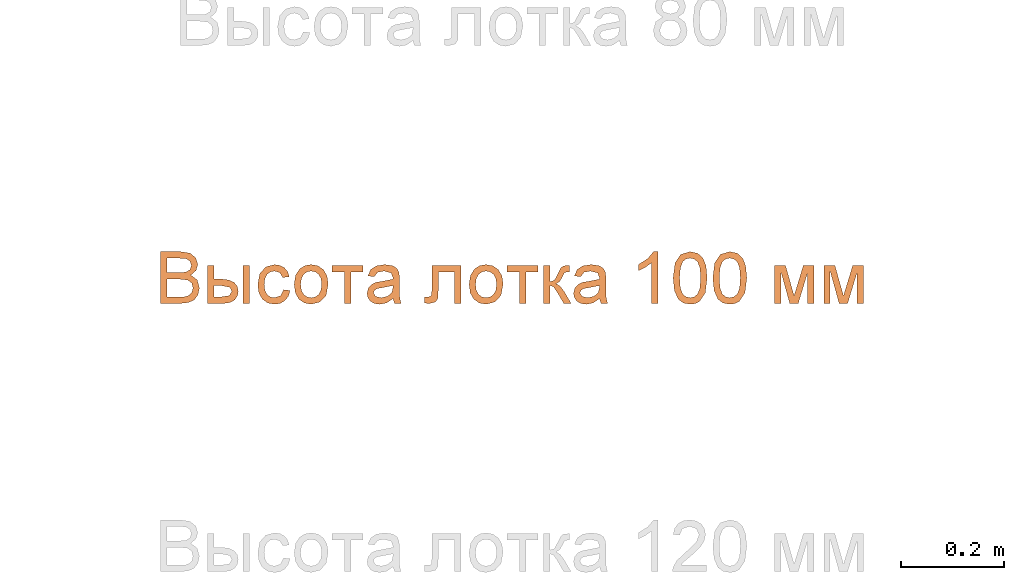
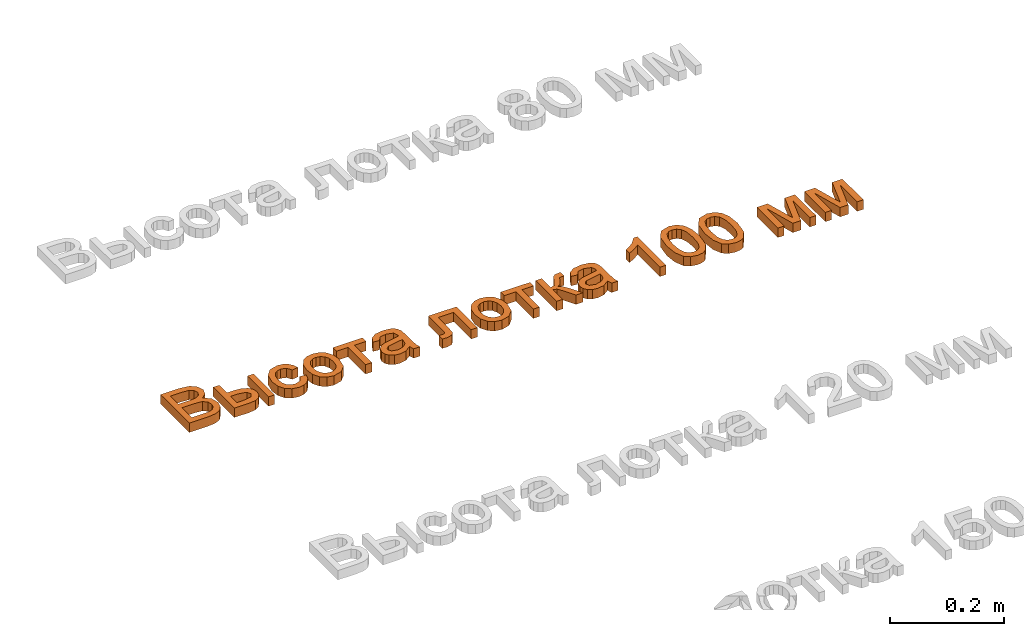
# One storey, part 16 of 71: 1 proxy.
"""IFC2X3 building model written with IfcOpenShell, lengths in millimetres."""

from ifc_helpers import new_model, entity, si_unit, converted_unit, derived_unit, direction, frame, frame_2d, origin, place, context, subcontext, project, spatial, polyline, rectangle, outline, extrude, element, save


model = new_model("IFC2X3")

# Units and contexts
model_context = context("Model", 3, precision=0.01, world=origin(), true_north=direction((6.12303176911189e-17, 1.0)))
body_context = subcontext(model_context, "Body", "Model", "MODEL_VIEW")
ifc_project = project(units=[si_unit("LENGTHUNIT", "METRE", prefix="MILLI"), si_unit("AREAUNIT", "SQUARE_METRE"), si_unit("VOLUMEUNIT", "CUBIC_METRE"), converted_unit("PLANEANGLEUNIT", "DEGREE", entity("IfcRatioMeasure", 0.0174532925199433), si_unit("PLANEANGLEUNIT", "RADIAN"), dimensions=[0, 0, 0, 0, 0, 0, 0]), si_unit("MASSUNIT", "GRAM", prefix="KILO"), derived_unit("MASSDENSITYUNIT", [(si_unit("MASSUNIT", "GRAM", prefix="KILO"), 1), (si_unit("LENGTHUNIT", "METRE"), -3)]), si_unit("TIMEUNIT", "SECOND"), si_unit("FREQUENCYUNIT", "HERTZ"), si_unit("THERMODYNAMICTEMPERATUREUNIT", "DEGREE_CELSIUS"), derived_unit("THERMALTRANSMITTANCEUNIT", [(si_unit("MASSUNIT", "GRAM", prefix="KILO"), 1), (si_unit("THERMODYNAMICTEMPERATUREUNIT", "KELVIN"), -1), (si_unit("TIMEUNIT", "SECOND"), -3)]), derived_unit("VOLUMETRICFLOWRATEUNIT", [(si_unit("LENGTHUNIT", "METRE"), 3), (si_unit("TIMEUNIT", "SECOND"), -1)]), si_unit("ELECTRICCURRENTUNIT", "AMPERE"), si_unit("ELECTRICVOLTAGEUNIT", "VOLT"), si_unit("POWERUNIT", "WATT"), si_unit("FORCEUNIT", "NEWTON", prefix="KILO"), si_unit("ILLUMINANCEUNIT", "LUX"), si_unit("LUMINOUSFLUXUNIT", "LUMEN"), si_unit("LUMINOUSINTENSITYUNIT", "CANDELA"), derived_unit("USERDEFINED", [(si_unit("MASSUNIT", "GRAM", prefix="KILO"), -1), (si_unit("LENGTHUNIT", "METRE"), -2), (si_unit("TIMEUNIT", "SECOND"), 3), (si_unit("LUMINOUSFLUXUNIT", "LUMEN"), 1)]), derived_unit("LINEARVELOCITYUNIT", [(si_unit("LENGTHUNIT", "METRE"), 1), (si_unit("TIMEUNIT", "SECOND"), -1)]), si_unit("PRESSUREUNIT", "PASCAL"), derived_unit("USERDEFINED", [(si_unit("LENGTHUNIT", "METRE"), -2), (si_unit("MASSUNIT", "GRAM", prefix="KILO"), 1), (si_unit("TIMEUNIT", "SECOND"), -2)])], contexts=[model_context])

# Site, building, storey
site_placement = place(None, origin())
site = spatial("IfcSite", under=ifc_project, at=site_placement, Name="Default", CompositionType="ELEMENT")
building_placement = place(site_placement, origin())
building = spatial("IfcBuilding", under=site, at=building_placement, Name="Наименование здания", CompositionType="ELEMENT")
storey_placement = place(building_placement, origin())
storey = spatial("IfcBuildingStorey", under=building, at=storey_placement, Name="Этаж 01", CompositionType="ELEMENT", Elevation=0.0)

# Proxy
proxy_placement = place(storey_placement, origin())
element("IfcBuildingElementProxy", 1, at=proxy_placement, inside=storey, Name="Текст модели:100 мм Arial", ObjectType="Текст модели:100 мм Arial", context=body_context, shape_type="SweptSolid", body=[
    extrude(outline(polyline([(-52.8068326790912, -48.6909338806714), (-14.7678343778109, -48.6909338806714), (1.33313427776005, -46.9618885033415), (12.2592295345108, -41.8605915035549), (19.5800812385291, -32.2466086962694), (22.5353999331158, -18.7453394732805), (18.2066551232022, -3.12261741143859), (5.83355735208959, 6.24611073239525), (16.0238886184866, 15.1365922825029), (19.3961402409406, 26.8720279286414), (15.3862264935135, 39.723372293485), (4.30071570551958, 48.810057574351), (-14.4735287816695, 51.7653762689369), (-52.8068326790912, 51.7653762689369), (-52.8068326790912, -48.6909338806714)]), holes=[polyline([(-40.2497939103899, 10.9550002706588), (-40.2497939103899, 39.2083375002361), (-19.0597909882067, 39.2083375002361), (-2.92203413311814, 37.8962250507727), (4.31297843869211, 33.0524454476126), (6.83910147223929, 24.8609396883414), (4.12903744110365, 16.6816966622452), (-3.92757825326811, 12.0341207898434), (-17.3184828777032, 10.9550002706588), (-40.2497939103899, 10.9550002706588)]), polyline([(-40.2497939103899, -36.1338951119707), (-40.2497939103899, -1.60203849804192), (-15.7243275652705, -1.60203849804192), (-0.211970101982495, -3.2820329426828), (7.57486546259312, -9.1068311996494), (9.97836116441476, -18.8679668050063), (7.93048472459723, -27.3292526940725), (2.70656039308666, -32.9087962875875), (-5.17837703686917, -35.6433857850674), (-14.4980542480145, -36.1338951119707), (-40.2497939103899, -36.1338951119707)])]), frame((1889.87567637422, -12417.8794073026, 0.0)), (0.0, 0.0, 1.0), 20.0),
    extrude(outline(polyline([(-42.39887158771, -34.5139341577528), (31.3737311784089, -34.5139341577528), (31.3737311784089, -3.73447389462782), (29.653882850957, 9.31613988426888), (24.4943378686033, 18.2526066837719), (16.9129030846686, 23.4121516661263), (7.92738535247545, 25.1319999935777), (-1.9410491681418, 23.0810578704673), (-9.42438208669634, 16.9282315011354), (-14.1424686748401, 6.9862205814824), (-15.7151642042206, -6.43227519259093), (-15.7151642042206, -21.9568953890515), (-42.39887158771, -21.9568953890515), (-42.39887158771, -34.5139341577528)]), holes=[polyline([(18.8166924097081, -21.9568953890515), (-3.15812543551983, -21.9568953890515), (-3.15812543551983, -7.41329384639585), (0.226388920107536, 8.88387853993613), (7.95191081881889, 12.5749612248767), (16.1802047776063, 7.59629155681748), (18.8166924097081, -9.05650009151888), (18.8166924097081, -21.9568953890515)])]), frame((1962.62130892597, -12435.1966100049, 0.0), z_axis=(0.0, 0.0, 1.0), x_axis=(0.0, -1.0, 0.0)), (0.0, 0.0, 1.0), 20.0),
    extrude(outline(polyline([(0.267683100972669, -20.7200562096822), (-4.02278247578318, -32.6253015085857), (7.51957889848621, -34.5647704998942), (18.024291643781, -32.5240986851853), (26.8500141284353, -26.8719753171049), (33.3554047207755, -17.9770896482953), (37.2076783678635, -4.95154901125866), (35.3403176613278, 7.71415747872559), (27.6846262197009, 19.1676933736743), (14.1719076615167, 28.5567222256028), (-6.16200624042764, 34.5864889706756), (-23.4110955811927, 30.2307841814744), (-35.1302422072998, 17.0254849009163), (-38.571429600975, 6.87231136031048), (-38.3156698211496, -2.77330902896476), (-34.4593562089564, -11.5597521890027), (-27.0988821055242, -19.1353940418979), (-20.0099089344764, -8.65257858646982), (-25.7552259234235, 0.801697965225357), (-23.980662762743, 11.248312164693), (-18.9208808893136, 17.7794646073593), (-11.8538304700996, 21.4126833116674), (-2.81100512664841, 21.5312059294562), (8.17610151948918, 17.5182701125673), (18.046848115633, 10.9639331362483), (23.3470531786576, 3.65828147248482), (24.6053297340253, -4.07586677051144), (22.3502908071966, -11.9156934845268), (13.5558525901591, -20.7200562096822), (0.267683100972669, -20.7200562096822)])), frame((2057.30288009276, -12430.2595425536, 0.0), z_axis=(0.0, 0.0, -1.0), x_axis=(-0.45310996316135, -0.891454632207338, 0.0)), (0.0, 0.0, -1.0), 20.0),
    extrude(outline(polyline([(-2.34029740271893, -31.6984909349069), (14.2731811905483, -31.6984909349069), (27.18695250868, -26.587367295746), (35.9909592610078, -17.181127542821), (40.2751441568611, -4.2957792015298), (38.1491713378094, 13.1690451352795), (27.2514955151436, 26.648536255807), (5.67797919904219, 33.7446283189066), (-10.1280544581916, 33.6081083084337), (-22.8059382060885, 28.3900569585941), (-31.6389568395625, 18.9754531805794), (-35.9103951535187, 6.24927588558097), (-35.5406401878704, -5.97109031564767), (-30.8535887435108, -16.7835237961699), (-19.5870121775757, -26.5692340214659), (-2.34029740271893, -31.6984909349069)]), holes=[polyline([(-0.642949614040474, -19.2566729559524), (-11.6948097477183, -16.2599663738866), (-19.0989004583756, -10.8341828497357), (-22.9822632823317, -3.67356758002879), (-23.4719397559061, 4.5276342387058), (-20.7783225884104, 12.2046648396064), (-15.0781786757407, 18.0357050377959), (-6.56600936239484, 21.2863283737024), (4.5636840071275, 21.222108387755), (15.8675929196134, 18.1905150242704), (23.3961896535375, 12.7474982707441), (27.326784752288, 5.5927250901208), (27.8366887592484, -2.57413755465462), (25.1317228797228, -10.3331599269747), (19.4311586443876, -16.1672368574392), (10.8134498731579, -19.3753979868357), (-0.642949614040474, -19.2566729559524)])]), frame((2127.77778019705, -12427.6561924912, 0.0), z_axis=(0.0, 0.0, 1.0), x_axis=(0.13710570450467, -0.990556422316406, 0.0)), (0.0, 0.0, 1.0), 20.0),
    extrude(outline(polyline([(-24.7216700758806, -29.8229670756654), (-12.1646313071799, -29.8229670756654), (-12.1646313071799, -6.27851938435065), (49.0509326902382, -6.27851938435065), (49.0509326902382, 6.27851938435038), (-12.1646313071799, 6.27851938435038), (-12.1646313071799, 29.8229670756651), (-24.7216700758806, 29.8229670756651), (-24.7216700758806, -29.8229670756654)])), frame((2199.65333814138, -12417.519408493, 0.0), z_axis=(0.0, 0.0, 1.0), x_axis=(0.0, -1.0, 0.0)), (0.0, 0.0, 1.0), 20.0),
    extrude(outline(polyline([(32.0508237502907, 7.88266535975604), (41.9780345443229, 7.88266535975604), (45.9489188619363, 19.7953183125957), (35.1414436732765, 20.7608946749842), (14.2438893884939, 27.0545912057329), (-0.577126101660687, 31.9949297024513), (-11.1945882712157, 34.8877809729), (-20.4974705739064, 33.9299602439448), (-28.5323068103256, 27.5470739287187), (-35.4619652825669, 13.8157249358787), (-38.3044049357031, -2.69989645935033), (-34.9462156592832, -15.3493345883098), (-25.0306383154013, -24.3807697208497), (-19.5706723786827, -12.9644773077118), (-25.7868125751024, -4.50695904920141), (-24.0611841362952, 8.30922519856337), (-16.2279943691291, 20.3304570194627), (-6.3395617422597, 20.6794605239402), (-3.71040200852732, 19.7255176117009), (-6.50243004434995, -2.30048133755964), (-8.14662433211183, -13.2049019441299), (-7.01817966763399, -22.8490321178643), (-2.1747865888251, -31.1204151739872), (6.48825595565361, -36.5416029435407), (15.0010331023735, -37.7020395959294), (22.9495879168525, -35.320090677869), (29.6378522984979, -29.3899394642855), (34.3697581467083, -19.9057692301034), (36.2737661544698, -6.3605554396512), (32.0508237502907, 7.88266535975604)]), holes=[polyline([(8.22551784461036, 15.8244339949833), (11.5759514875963, 14.6300664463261), (20.1614376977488, 9.67421668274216), (24.469692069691, -0.396473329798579), (23.3024692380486, -13.3987927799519), (17.2491973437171, -22.9498553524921), (9.62153186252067, -24.3497471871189), (5.58084684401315, -21.1932043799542), (3.98706417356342, -15.5044472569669), (5.47226797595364, -4.61166010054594), (8.22551784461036, 15.8244339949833)])]), frame((2269.93909615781, -12429.2391985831, 0.0), z_axis=(0.0, 0.0, 1.0), x_axis=(0.316227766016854, -0.948683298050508, 0.0)), (0.0, 0.0, 1.0), 20.0),
    extrude(outline(polyline([(-49.3689973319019, 12.5447760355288), (-49.3689973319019, -43.9618984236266), (24.3300290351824, -43.9618984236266), (24.3300290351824, -31.4048596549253), (-36.8119585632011, -31.4048596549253), (-36.8119585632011, -0.0122627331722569), (-1.61791435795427, -0.0122627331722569), (14.6179443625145, 0.833865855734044), (21.4728122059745, 5.48144172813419), (24.403605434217, 16.4688506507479), (23.7659433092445, 26.6714446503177), (11.8465666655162, 26.6714446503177), (11.8465666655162, 21.0551128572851), (11.0740144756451, 15.37746739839), (8.62146784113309, 13.1088617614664), (-2.32915288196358, 12.5447760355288), (-49.3689973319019, 12.5447760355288)])), frame((2375.43961817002, -12442.1667357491, 0.0), z_axis=(0.0, 0.0, -1.0), x_axis=(0.0, -1.0, 0.0)), (0.0, 0.0, -1.0), 20.0),
    extrude(outline(polyline([(-2.34029740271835, -31.6984909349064), (14.2731811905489, -31.6984909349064), (27.1869525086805, -26.5873672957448), (35.9909592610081, -17.1811275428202), (40.2751441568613, -4.29577920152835), (38.1491713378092, 13.1690451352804), (27.2514955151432, 26.6485362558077), (5.67797919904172, 33.7446283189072), (-10.128054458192, 33.6081083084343), (-22.8059382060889, 28.3900569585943), (-31.6389568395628, 18.9754531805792), (-35.9103951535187, 6.2492758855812), (-35.5406401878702, -5.9710903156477), (-30.8535887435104, -16.7835237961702), (-19.5870121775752, -26.5692340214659), (-2.34029740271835, -31.6984909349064)]), holes=[polyline([(-0.642949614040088, -19.2566729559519), (-11.694809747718, -16.2599663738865), (-19.0989004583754, -10.834182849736), (-22.9822632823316, -3.67356758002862), (-23.4719397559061, 4.52763423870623), (-20.7783225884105, 12.2046648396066), (-15.078178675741, 18.035705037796), (-6.56600936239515, 21.2863283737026), (4.56368400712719, 21.2221083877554), (15.8675929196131, 18.190515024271), (23.3961896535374, 12.747498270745), (27.3267847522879, 5.59272509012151), (27.8366887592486, -2.57413755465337), (25.1317228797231, -10.3331599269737), (19.4311586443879, -16.1672368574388), (10.8134498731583, -19.3753979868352), (-0.642949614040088, -19.2566729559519)])]), frame((2466.81782695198, -12427.6561924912, 0.0), z_axis=(0.0, 0.0, 1.0), x_axis=(0.137105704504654, -0.990556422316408, 0.0)), (0.0, 0.0, 1.0), 20.0),
    extrude(outline(polyline([(-24.7216700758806, -29.8229670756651), (-12.1646313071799, -29.8229670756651), (-12.1646313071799, -6.27851938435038), (49.0509326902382, -6.27851938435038), (49.0509326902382, 6.27851938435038), (-12.1646313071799, 6.27851938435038), (-12.1646313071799, 29.8229670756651), (-24.7216700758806, 29.8229670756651), (-24.7216700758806, -29.8229670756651)])), frame((2538.69338489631, -12417.519408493, 0.0), z_axis=(0.0, 0.0, 1.0), x_axis=(0.0, -1.0, 0.0)), (0.0, 0.0, 1.0), 20.0),
    extrude(outline(polyline([(-30.3295712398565, -29.5353037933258), (43.4430315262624, -29.5353037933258), (43.4430315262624, -16.9782650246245), (8.91117491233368, -16.9782650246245), (11.2288314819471, -10.2337617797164), (20.8060260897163, -3.61188586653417), (43.4430315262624, 9.55828956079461), (43.4430315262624, 23.8321109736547), (20.3155167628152, 10.3921554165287), (10.0209522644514, 2.61758258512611), (5.13425309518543, -5.30414304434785), (0.756457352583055, 1.79597946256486), (-8.18307513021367, 6.86048826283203), (-16.4481572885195, 11.1769703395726), (-17.7725324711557, 17.3083369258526), (-17.6989560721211, 20.6928512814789), (-30.3295712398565, 20.6928512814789), (-30.3295712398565, 18.2893555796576), (-29.3730780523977, 9.10456843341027), (-25.6819953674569, 4.05232236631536), (-14.3389671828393, -1.67437402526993), (-1.19331722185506, -8.56603006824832), (1.06302568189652, -16.9782650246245), (-30.3295712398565, -16.9782650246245), (-30.3295712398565, -29.5353037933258)])), frame((2609.03906468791, -12423.127309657, 0.0), z_axis=(0.0, 0.0, 1.0), x_axis=(0.0, -1.0, 0.0)), (0.0, 0.0, 1.0), 20.0),
    extrude(rectangle(XDim=73.7726027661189, YDim=12.5570387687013, at=frame_2d((1.08357767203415e-12, -2.70450328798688e-13), x_axis=(1.0, 0.0))), frame((2003.44960738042, -12429.6840398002, 0.0), z_axis=(0.0, 0.0, 1.0), x_axis=(0.0, -1.0, 0.0)), (0.0, 0.0, 1.0), 20.0),
    extrude(outline(polyline([(32.0508237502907, 7.88266535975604), (41.9780345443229, 7.88266535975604), (45.9489188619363, 19.7953183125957), (35.1414436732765, 20.7608946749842), (14.2438893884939, 27.0545912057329), (-0.577126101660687, 31.9949297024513), (-11.1945882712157, 34.8877809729), (-20.4974705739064, 33.9299602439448), (-28.5323068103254, 27.5470739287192), (-35.4619652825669, 13.8157249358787), (-38.304404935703, -2.69989645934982), (-34.9462156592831, -15.3493345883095), (-25.0306383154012, -24.3807697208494), (-19.5706723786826, -12.9644773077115), (-25.7868125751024, -4.50695904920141), (-24.0611841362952, 8.30922519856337), (-16.227994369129, 20.3304570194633), (-6.3395617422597, 20.6794605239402), (-3.71040200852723, 19.7255176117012), (-6.50243004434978, -2.30048133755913), (-8.14662433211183, -13.2049019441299), (-7.01817966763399, -22.8490321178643), (-2.17478658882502, -31.1204151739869), (6.48825595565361, -36.5416029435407), (15.0010331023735, -37.7020395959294), (22.9495879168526, -35.3200906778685), (29.6378522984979, -29.3899394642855), (34.3697581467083, -19.9057692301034), (36.2737661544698, -6.36055543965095), (32.0508237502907, 7.88266535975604)]), holes=[polyline([(8.22551784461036, 15.8244339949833), (11.5759514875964, 14.6300664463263), (20.1614376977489, 9.67421668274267), (24.4696920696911, -0.396473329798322), (23.3024692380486, -13.3987927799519), (17.2491973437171, -22.9498553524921), (9.62153186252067, -24.3497471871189), (5.58084684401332, -21.1932043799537), (3.98706417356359, -15.5044472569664), (5.47226797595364, -4.61166010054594), (8.22551784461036, 15.8244339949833)])]), frame((2670.19470691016, -12429.2391985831, 0.0), z_axis=(0.0, 0.0, 1.0), x_axis=(0.316227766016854, -0.948683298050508, 0.0)), (0.0, 0.0, 1.0), 20.0),
    extrude(outline(polyline([(-63.8793021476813, -16.9184842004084), (36.577008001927, -16.9184842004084), (36.577008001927, -8.82508030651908), (23.2106288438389, 2.34626961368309), (11.4629304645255, 20.752632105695), (-0.407395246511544, 20.752632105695), (5.93243780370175, 7.53340574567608), (14.4059864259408, -4.36144543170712), (-63.8793021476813, -4.36144543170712), (-63.8793021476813, -16.9184842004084)])), frame((2783.90308499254, -12402.6910390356, 0.0), z_axis=(0.0, 0.0, 1.0), x_axis=(0.0, 1.0, 0.0)), (0.0, 0.0, 1.0), 20.0),
    extrude(outline(polyline([(-7.02884310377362, -33.3490673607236), (17.5323805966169, -33.3490673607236), (35.1984171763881, -27.6137612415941), (43.3439841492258, -18.4876517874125), (47.0516941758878, -5.75150665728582), (46.7162020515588, 4.48638208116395), (43.4465778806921, 13.0955287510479), (27.9444305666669, 25.6659118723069), (-0.314338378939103, 32.2325535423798), (-24.0296505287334, 32.3678288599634), (-39.414302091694, 28.0260881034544), (-49.7293680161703, 18.9002174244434), (-54.4436715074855, 4.63998875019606), (-50.867658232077, -14.130105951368), (-35.4058547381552, -26.7333390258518), (-7.02884310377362, -33.3490673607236)]), holes=[polyline([(-5.77428774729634, -20.8548320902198), (-25.0157644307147, -17.3562860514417), (-36.7257089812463, -11.5717922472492), (-41.096258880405, -4.77599682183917), (-41.9669219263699, 3.21464792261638), (-39.2244253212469, 11.2791292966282), (-32.8654063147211, 17.2229259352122), (-20.969837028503, 20.2947501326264), (-1.61768958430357, 19.7433141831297), (17.8514140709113, 16.2707701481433), (28.7803640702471, 10.7141596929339), (33.5546988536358, 3.61815959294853), (34.5599568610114, -4.472553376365), (31.9421230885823, -12.1923199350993), (25.8471825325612, -18.1754808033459), (14.0250679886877, -21.4027476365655), (-5.77428774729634, -20.8548320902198)])]), frame((2864.53607383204, -12420.7471642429, 0.0), z_axis=(0.0, 0.0, 1.0), x_axis=(0.101851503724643, -0.994799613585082, 0.0)), (0.0, 0.0, 1.0), 20.0),
    extrude(outline(polyline([(-7.02884310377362, -33.3490673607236), (17.5323805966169, -33.3490673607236), (35.1984171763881, -27.6137612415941), (43.3439841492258, -18.4876517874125), (47.0516941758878, -5.75150665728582), (46.7162020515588, 4.48638208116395), (43.4465778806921, 13.0955287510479), (27.9444305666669, 25.6659118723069), (-0.314338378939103, 32.2325535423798), (-24.0296505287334, 32.3678288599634), (-39.414302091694, 28.0260881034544), (-49.7293680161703, 18.9002174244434), (-54.4436715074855, 4.63998875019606), (-50.867658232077, -14.130105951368), (-35.4058547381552, -26.7333390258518), (-7.02884310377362, -33.3490673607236)]), holes=[polyline([(-5.77428774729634, -20.8548320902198), (-25.0157644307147, -17.3562860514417), (-36.7257089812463, -11.5717922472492), (-41.096258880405, -4.77599682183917), (-41.9669219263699, 3.21464792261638), (-39.2244253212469, 11.2791292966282), (-32.8654063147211, 17.2229259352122), (-20.969837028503, 20.2947501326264), (-1.61768958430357, 19.7433141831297), (17.8514140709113, 16.2707701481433), (28.7803640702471, 10.7141596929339), (33.5546988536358, 3.61815959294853), (34.5599568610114, -4.472553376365), (31.9421230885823, -12.1923199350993), (25.8471825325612, -18.1754808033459), (14.0250679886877, -21.4027476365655), (-5.77428774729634, -20.8548320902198)])]), frame((2941.44793629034, -12420.7471642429, 0.0), z_axis=(0.0, 0.0, 1.0), x_axis=(0.101851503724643, -0.994799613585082, 0.0)), (0.0, 0.0, 1.0), 20.0),
    extrude(outline(polyline([(-40.5839870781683, -38.4502715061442), (33.1886156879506, -38.4502715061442), (33.1886156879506, -25.8932327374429), (-29.0570178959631, -25.8932327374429), (33.1886156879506, -8.62730443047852), (33.1886156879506, 7.85380895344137), (-26.2120637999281, 25.9045521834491), (33.1886156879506, 25.9045521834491), (33.1886156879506, 38.4615909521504), (-40.5839870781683, 38.4615909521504), (-40.5839870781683, 17.7620973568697), (18.4733358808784, -0.190544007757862), (-40.5839870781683, -16.8433356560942), (-40.5839870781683, -38.4502715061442)])), frame((3065.29853853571, -12433.3817254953, 0.0), z_axis=(0.0, 0.0, 1.0), x_axis=(0.0, -1.0, 0.0)), (0.0, 0.0, 1.0), 20.0),
    extrude(outline(polyline([(-40.5839870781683, -38.4502715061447), (33.1886156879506, -38.4502715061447), (33.1886156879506, -25.8932327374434), (-29.0570178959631, -25.8932327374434), (33.1886156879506, -8.6273044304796), (33.1886156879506, 7.85380895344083), (-26.2120637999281, 25.9045521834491), (33.1886156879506, 25.9045521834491), (33.1886156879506, 38.4615909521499), (-40.5839870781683, 38.4615909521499), (-40.5839870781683, 17.7620973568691), (18.4733358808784, -0.190544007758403), (-40.5839870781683, -16.8433356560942), (-40.5839870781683, -38.4502715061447)])), frame((3161.04595914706, -12433.3817254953, 0.0), z_axis=(0.0, 0.0, 1.0), x_axis=(0.0, -1.0, 0.0)), (0.0, 0.0, 1.0), 20.0),
])

save(model, "model.ifc")
